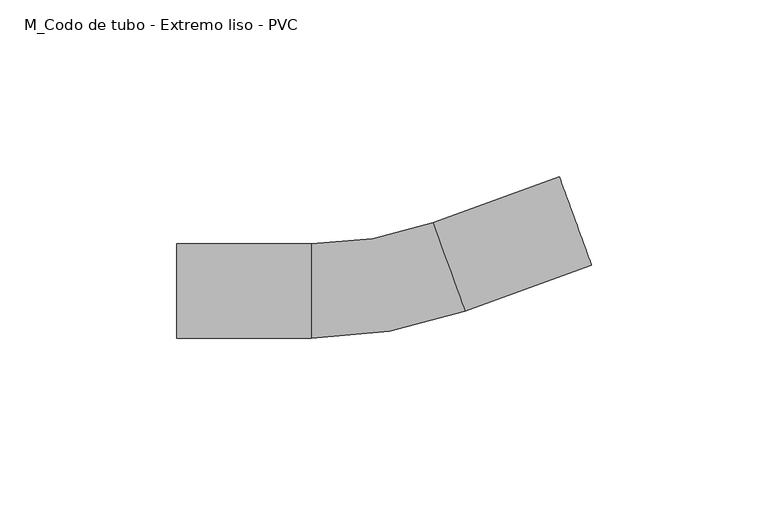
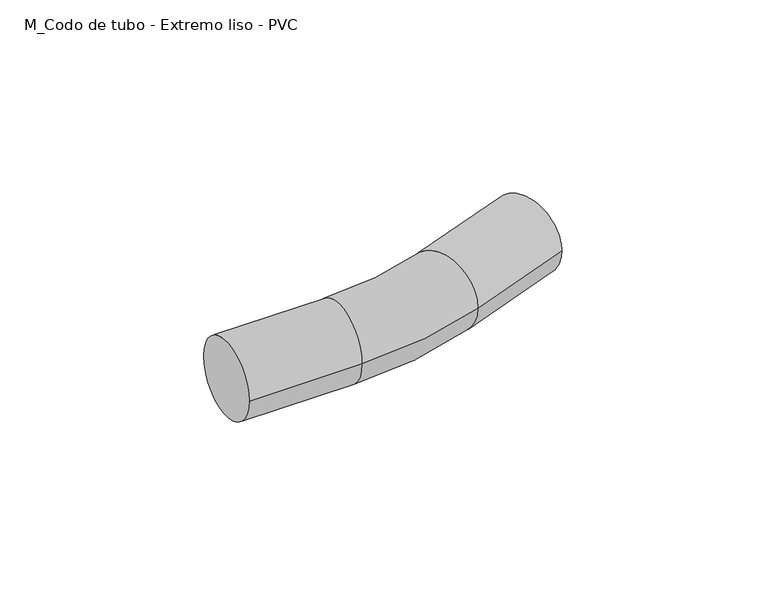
"""IFC4 building model written with IfcOpenShell, lengths in millimetres: cable carrier fitting geometry, M_Codo de tubo - Extremo liso - PVC : CODO ILUMINACION."""

from ifc_helpers import new_model, si_unit, point, frame, origin, place, context, project, spatial, circle_curve, ellipse_curve, trimmed, source, transform, mapped, element, save
from ifc_brep_helpers import plane_surface, cylinder_surface, revolved_surface, advanced_brep


def m_codo_de_tubo_extremo_liso_pvc_9389fd72(model_context):
    return source(origin(), model_context, "Body", "AdvancedBrep", [
        advanced_brep(
        [(-58.2044834, -13.335, 0.0), (-58.2044834, 13.335, 0.0), (-20.1044834, -13.335, 0.0), (-20.1044834, 13.335, 0.0), (14.3475573, 19.3948467, 0.0), (23.4480963, -5.674439, 0.0), (59.2613617, 7.3263311, 0.0), (50.1608227, 32.3956168, 0.0)],
        [
            (0, 1, circle_curve(frame((-58.2044834, 0.0, 0.0), z_axis=(-1.0, 0.0, 0.0), x_axis=(0.0, 1.0, 0.0)), 13.335)),
            (1, 0, circle_curve(frame((-58.2044834, 0.0, 0.0), z_axis=(-1.0, 0.0, 0.0), x_axis=(0.0, 1.0, 0.0)), 13.335)),
            (0, 2),
            (2, 3, circle_curve(frame((-20.1044834, 0.0, 0.0), z_axis=(-1.0, 0.0, 0.0), x_axis=(0.0, 1.0, 0.0)), 13.335)),
            (3, 1),
            (3, 2, circle_curve(frame((-20.1044834, 0.0, 0.0), z_axis=(-1.0, 0.0, 0.0), x_axis=(0.0, 1.0, 0.0)), 13.335)),
            (4, 3, circle_curve(frame((-20.1044834, 114.3, 0.0), z_axis=(0.0, 0.0, -1.0), x_axis=(0.0, -1.0, 0.0)), 100.965)),
            (2, 5, circle_curve(frame((-20.1044834, 114.3, 0.0), z_axis=(0.0, 0.0, 1.0), x_axis=(0.0, -1.0, 0.0)), 127.635)),
            (5, 4, circle_curve(frame((18.8978268, 6.8602039, 0.0), z_axis=(-0.9399807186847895, -0.3412275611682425, 0.0), x_axis=(-0.3412275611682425, 0.9399807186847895, 0.0)), 13.335)),
            (4, 5, circle_curve(frame((18.8978268, 6.8602039, 0.0), z_axis=(-0.9399807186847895, -0.34122756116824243, 0.0), x_axis=(-0.34122756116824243, 0.9399807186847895, 0.0)), 13.335)),
            (6, 7, circle_curve(frame((54.7110922, 19.8609739, 0.0), z_axis=(0.9399807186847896, 0.34122756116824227, 0.0), x_axis=(-0.34122756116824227, 0.9399807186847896, 0.0)), 13.335)),
            (7, 6, circle_curve(frame((54.7110922, 19.8609739, 0.0), z_axis=(0.9399807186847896, 0.34122756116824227, 0.0), x_axis=(-0.34122756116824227, 0.9399807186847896, 0.0)), 13.335)),
            (5, 6),
            (7, 4),
        ],
        [
            plane_surface(frame((-58.2044834, 0.0, 0.0), z_axis=(-1.0, 0.0, 0.0), x_axis=(0.0, 0.0, 1.0))),
            cylinder_surface(frame((-58.2044834, 0.0, 0.0), z_axis=(-1.0, 0.0, 0.0), x_axis=(0.0, 1.0, 0.0)), 13.335),
            revolved_surface(trimmed(ellipse_curve(frame((-20.1044834, 0.0, 0.0), z_axis=(-1.0, 0.0, 0.0), x_axis=(0.0, 1.0, 0.0)), 13.335, 13.335), [point((-20.1044834, -13.335, 0.0))], [point((-20.1044834, 13.335, 0.0))], True, "CARTESIAN"), (-20.1044834, 114.3, 0.0), (0.0, 0.0, 1.0)),
            revolved_surface(trimmed(ellipse_curve(frame((-20.1044834, 0.0, 0.0), z_axis=(-1.0, 0.0, 0.0), x_axis=(0.0, 1.0, 0.0)), 13.335, 13.335), [point((-20.1044834, 13.335, 0.0))], [point((-20.1044834, -13.335, 0.0))], True, "CARTESIAN"), (-20.1044834, 114.3, 0.0), (0.0, 0.0, 1.0)),
            plane_surface(frame((54.7110922, 19.8609739, 0.0), z_axis=(0.9399807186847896, 0.34122756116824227, 0.0), x_axis=(0.0, 0.0, 1.0))),
            cylinder_surface(frame((18.8978268, 6.8602039, 0.0), z_axis=(-0.9399807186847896, -0.34122756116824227, 0.0), x_axis=(-0.34122756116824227, 0.9399807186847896, 0.0)), 13.335),
        ],
        [
            (0, [[1, 2]]),
            (1, [[-1, 3, 4, 5]]),
            (1, [[-2, -5, 6, -3]]),
            (2, [[7, -4, 8, 9]]),
            (3, [[-8, -6, -7, 10]]),
            (4, [[11, 12]]),
            (5, [[-9, 13, -12, 14]]),
            (5, [[-10, -14, -11, -13]]),
        ],
    ),
    ])


if __name__ == "__main__":
    model = new_model("IFC4")
    model_context = context("Model", 3, world=origin())
    ifc_project = project(units=[si_unit("LENGTHUNIT", "METRE", prefix="MILLI")], contexts=[model_context])
    site = spatial("IfcSite", under=ifc_project)
    building = spatial("IfcBuilding", under=site)
    placement = place(None, origin())
    m_codo_de_tubo_extremo_liso_pvc_shape = m_codo_de_tubo_extremo_liso_pvc_9389fd72(model_context)
    element("IfcCableCarrierFitting", 1, ObjectType="M_Codo de tubo - Extremo liso - PVC : CODO ILUMINACION", at=placement, inside=building, context=model_context, shape_type="MappedRepresentation", body=[
        mapped(m_codo_de_tubo_extremo_liso_pvc_shape, transform((0.0, 0.0, 0.0), x_axis=(1.0, 0.0, 0.0), y_axis=(0.0, 1.0, 0.0), z_axis=(0.0, 0.0, 1.0))),
    ])
    save(model, "model.ifc")
